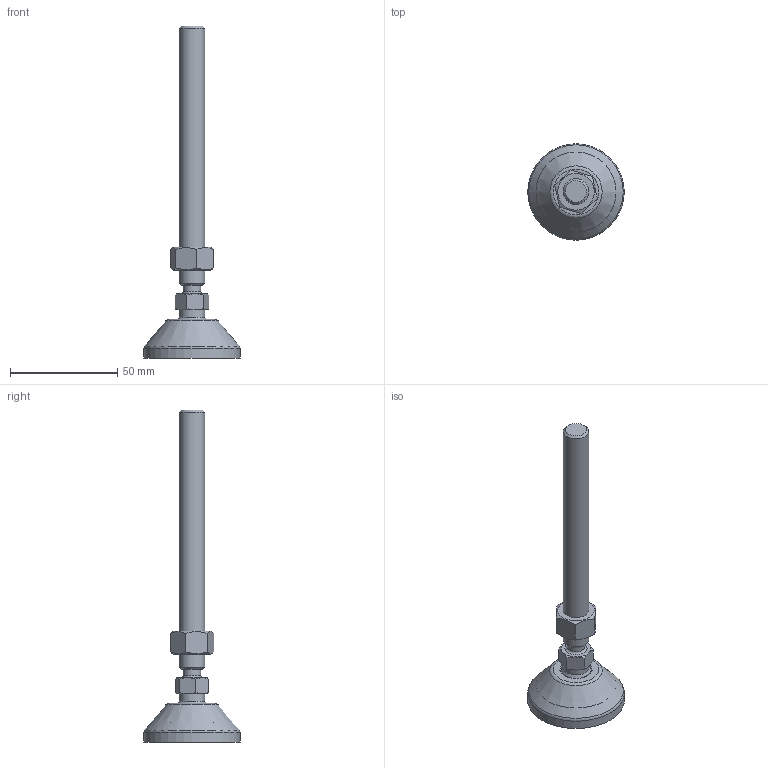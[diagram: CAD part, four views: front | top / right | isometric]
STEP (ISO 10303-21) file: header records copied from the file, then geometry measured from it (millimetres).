
FILE_DESCRIPTION(('STEP AP203'), '1');
FILE_NAME('栖闉罻', '', ('UNSPECIFIED'), ('UNSPECIFIED'), 'C3D Converter', 'C3D Toolkit', '');
FILE_SCHEMA(('CONFIG_CONTROL_DESIGN'));
Length unit declared in the file: millimetre
Products named in the file (4): A00015.1045; A00020.112125
Assembly tree (3 placements, depth 3):
  (unnamed)
    A00015.1045
    A00020.112125
      (unnamed)
Bounding box: 45 x 45 x 155 mm (x, y, z)
Volume: 31169.6 mm3; surface area: 13959.1 mm2
Topology: 3 solids, 3 shells, 141 faces, 380 edges, 250 vertices
Faces by surface type: plane 79, cylinder 26, cone 21, torus 13, sphere 2
Full cylindrical faces by diameter (mm): 8.3 x1, 10.647 x1, 12 x2, 14.3 x1, 15 x2, 15.5 x1, 37.3 x1, 45 x1
Entity records: 7715 total; most frequent: CARTESIAN_POINT 2951, DIRECTION 716, ORIENTED_EDGE 706, EDGE_CURVE 353, AXIS2_PLACEMENT_3D 288, VERTEX_POINT 249, EDGE_LOOP 174, FACE_BOUND 150
